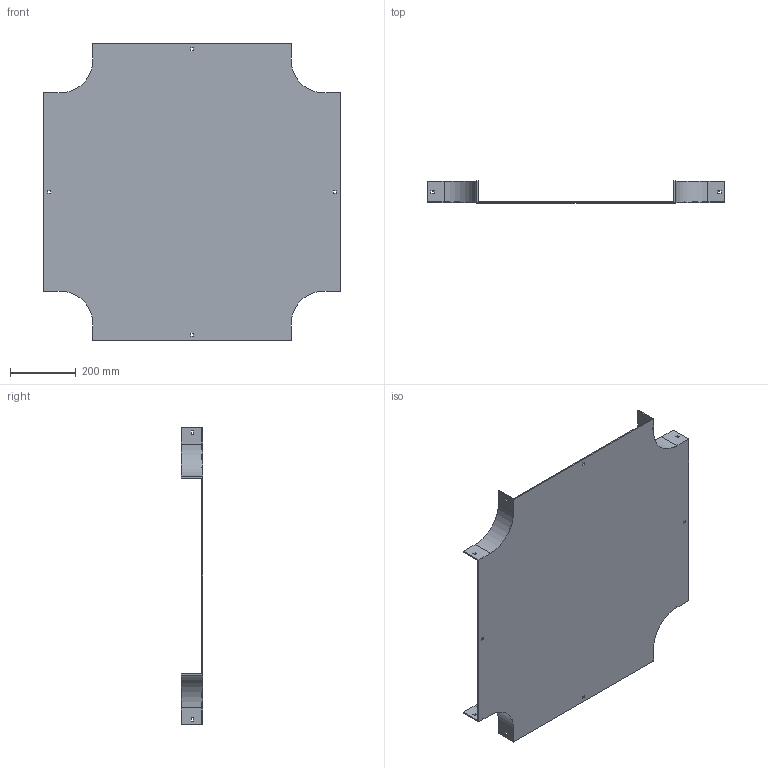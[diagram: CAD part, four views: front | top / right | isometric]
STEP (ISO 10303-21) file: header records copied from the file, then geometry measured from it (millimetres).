
FILE_DESCRIPTION (( 'STEP AP214' ), '1' );
FILE_NAME ('17B1H600.step', '2025-02-21T09:58:00', ( '' ), ( '' ), 'SwSTEP 2.0', 'SolidWorks 2023', '' );
FILE_SCHEMA (( 'AUTOMOTIVE_DESIGN' ));
Length unit declared in the file: millimetre
Products named in the file (1): 17B1H600
Bounding box: 904 x 65.5 x 904 mm (x, y, z)
Volume: 2798052.4 mm3; surface area: 1614064.2 mm2
Topology: 1 solids, 1 shells, 82 faces, 240 edges, 160 vertices
Faces by surface type: plane 74, cylinder 8
Entity records: 2751 total; most frequent: CARTESIAN_POINT 483, ORIENTED_EDGE 480, DIRECTION 422, EDGE_CURVE 240, LINE 224, VECTOR 224, VERTEX_POINT 160, EDGE_LOOP 106
